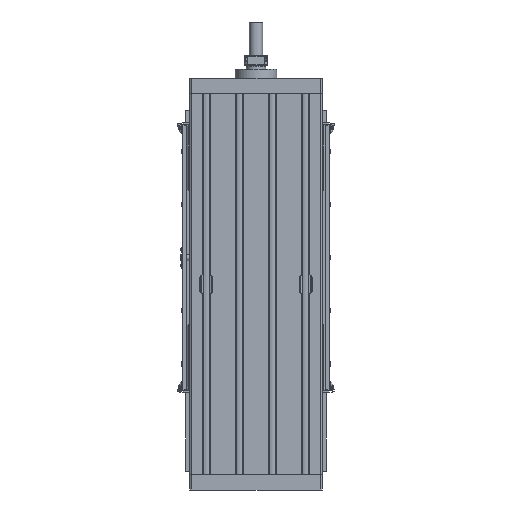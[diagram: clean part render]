
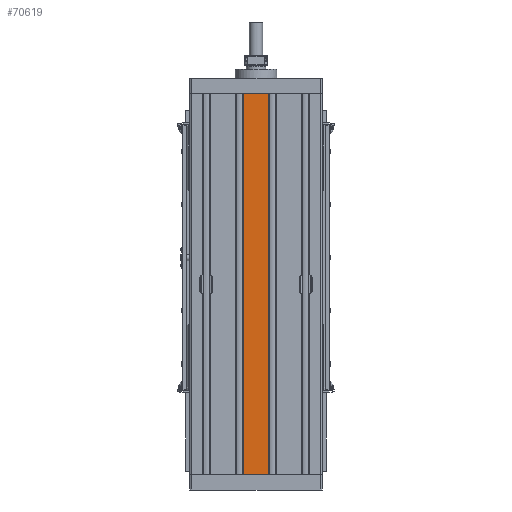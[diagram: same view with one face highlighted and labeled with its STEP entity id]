
A CAD part, front view. The second image highlights one B-rep face of the part: STEP entity #70619.
In plain terms, the highlighted planar face has unit normal (0, -1, 0).
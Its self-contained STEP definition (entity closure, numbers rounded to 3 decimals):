
#9486=FACE_OUTER_BOUND('',#13419,.T.);
#13419=EDGE_LOOP('',(#49248,#49249,#49250,#49251));
#18052=LINE('',#103211,#24442);
#18152=LINE('',#103525,#24542);
#18305=LINE('',#103913,#24695);
#18306=LINE('',#103915,#24696);
#24442=VECTOR('',#82855,10.);
#24542=VECTOR('',#83087,10.);
#24695=VECTOR('',#83492,10.);
#24696=VECTOR('',#83495,10.);
#30835=VERTEX_POINT('',#103208);
#30836=VERTEX_POINT('',#103210);
#30983=VERTEX_POINT('',#103522);
#30984=VERTEX_POINT('',#103524);
#37802=EDGE_CURVE('',#30835,#30836,#18052,.T.);
#37966=EDGE_CURVE('',#30983,#30984,#18152,.T.);
#38163=EDGE_CURVE('',#30983,#30836,#18305,.T.);
#38164=EDGE_CURVE('',#30984,#30835,#18306,.T.);
#49248=ORIENTED_EDGE('',*,*,#38163,.T.);
#49249=ORIENTED_EDGE('',*,*,#37802,.F.);
#49250=ORIENTED_EDGE('',*,*,#38164,.F.);
#49251=ORIENTED_EDGE('',*,*,#37966,.F.);
#68259=PLANE('',#75213);
#70619=ADVANCED_FACE('',(#9486),#68259,.T.);
#75213=AXIS2_PLACEMENT_3D('',#103914,#83493,#83494);
#82855=DIRECTION('',(1.,0.,0.));
#83087=DIRECTION('',(-1.,0.,0.));
#83492=DIRECTION('',(0.,0.,1.));
#83493=DIRECTION('center_axis',(0.,-1.,0.));
#83494=DIRECTION('ref_axis',(1.,0.,0.));
#83495=DIRECTION('',(0.,0.,1.));
#103208=CARTESIAN_POINT('',(-18.9,-50.,237.));
#103210=CARTESIAN_POINT('',(18.9,-50.,237.));
#103211=CARTESIAN_POINT('',(-18.9,-50.,237.));
#103522=CARTESIAN_POINT('',(18.9,-50.,-337.));
#103524=CARTESIAN_POINT('',(-18.9,-50.,-337.));
#103525=CARTESIAN_POINT('',(18.9,-50.,-337.));
#103913=CARTESIAN_POINT('',(18.9,-50.,0.));
#103914=CARTESIAN_POINT('Origin',(-18.9,-50.,0.));
#103915=CARTESIAN_POINT('',(-18.9,-50.,0.));
